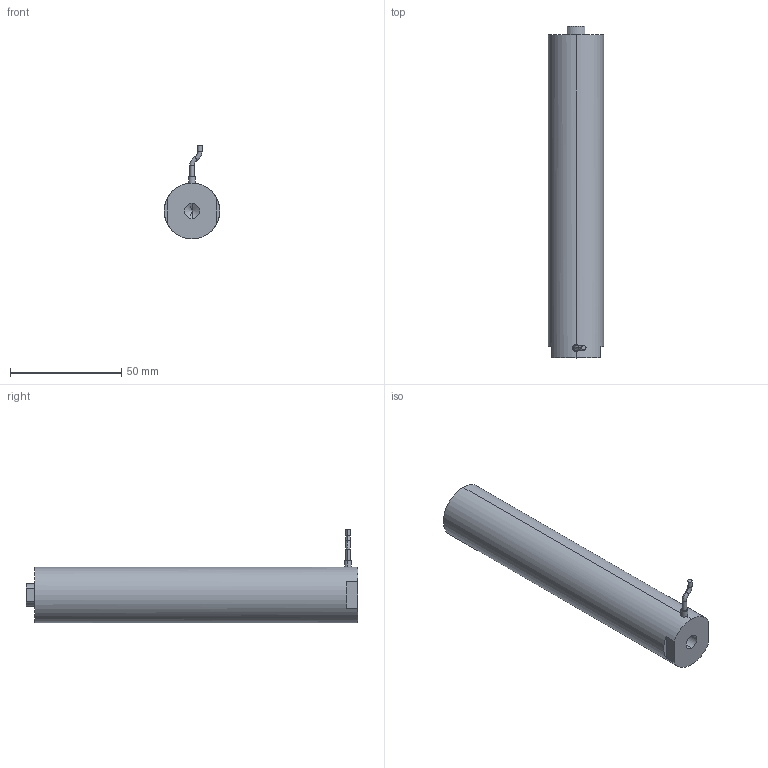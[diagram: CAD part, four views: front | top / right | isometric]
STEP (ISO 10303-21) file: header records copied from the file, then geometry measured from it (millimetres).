
FILE_DESCRIPTION (( 'STEP AP203' ), '1' );
FILE_NAME ('ﾄﾚﾂﾝﾎﾆﾊｽ140VS25.STEP', '2021-07-08T07:19:18', ( 'ﾎ｢ﾈ橆ﾃｻｧ' ), ( 'ﾎ｢ﾈ晥ｫﾋｾ' ), 'SwSTEP 2.0', 'SolidWorks 2016', '' );
FILE_SCHEMA (( 'CONFIG_CONTROL_DESIGN' ));
Length unit declared in the file: millimetre
Products named in the file (1): 囀蹟恇宒140VS25
Bounding box: 25 x 149 x 42.06 mm (x, y, z)
Volume: 70805.5 mm3; surface area: 12996.7 mm2
Topology: 1 solids, 1 shells, 952 faces, 2582 edges, 1714 vertices
Faces by surface type: bspline 513, plane 324, cylinder 107, torus 4, cone 4
Entity records: 44601 total; most frequent: CARTESIAN_POINT 25174, ORIENTED_EDGE 5148, EDGE_CURVE 2574, DIRECTION 2041, VERTEX_POINT 1712, B_SPLINE_CURVE_WITH_KNOTS 1701, EDGE_LOOP 1040, FACE_OUTER_BOUND 952
